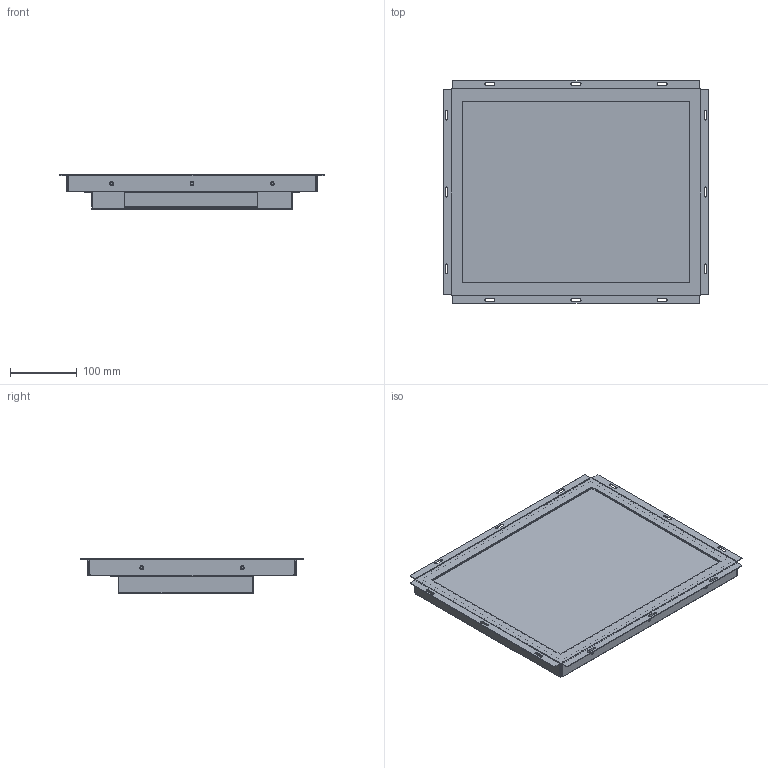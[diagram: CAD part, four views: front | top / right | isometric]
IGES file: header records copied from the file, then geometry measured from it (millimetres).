
Global section: file name: FIE170LM; native system: AutoCAD 2019 – 繁體中文 (Traditional Chinese),62HAutode; preprocessor: sk Translation Framework DWG producer (atf_dwg_producer); organization: unknown; date: 20210629.164327; units: millimetre
Bounding box: 397 x 333 x 51 mm (x, y, z)
Volume: 1358280.5 mm3; surface area: 951312.6 mm2
Topology: 13 solids, 13 shells, 1024 faces, 2602 edges, 1722 vertices
Faces by surface type: bspline 1024
